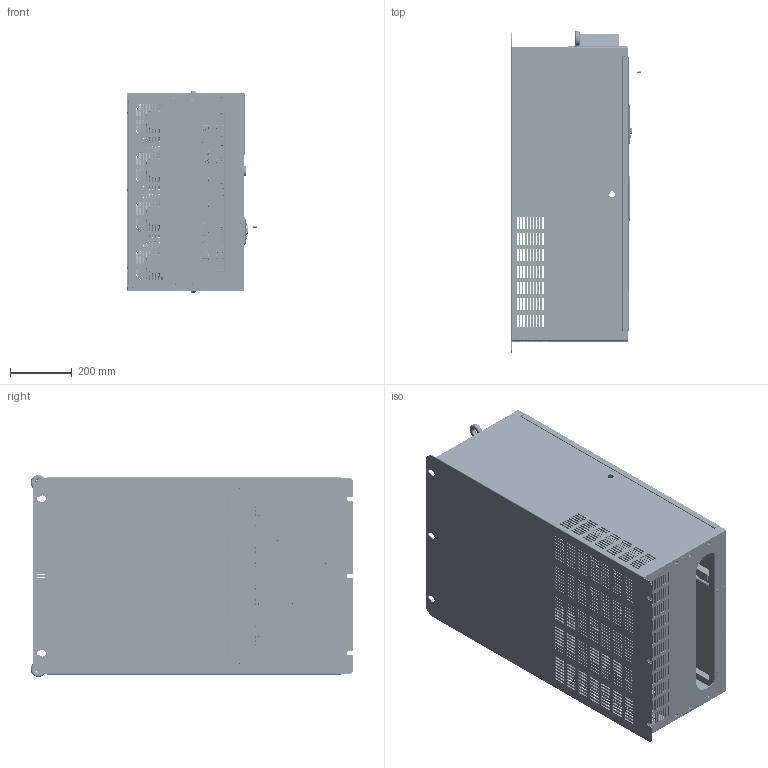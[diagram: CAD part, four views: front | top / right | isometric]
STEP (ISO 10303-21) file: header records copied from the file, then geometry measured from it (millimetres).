
FILE_DESCRIPTION(('STEP AP203'), '1');
FILE_NAME('Ïðåîáðàçîâàòåëü ÷àñòîòû _ LCI-G280_P315-4', '2024-11-01T14:45:27', ('admin'), (''), 'C3D Converter', 'C3D Toolkit', '');
FILE_SCHEMA(('CONFIG_CONTROL_DESIGN'));
Length unit declared in the file: millimetre
Products named in the file (82): LCI-G280_P315-4; LCI-G280; S-M5-1; S-M3-1; FCI-G280; S-M4-1; S-M6-1; BSO-M3-12; S-M8-1; BSO-M3-14; BSO-M3-10; BSO-M3-18; DIN 929; СБДINS LCI-KP-B; Панель управления; Панель управленния
Assembly tree (250 placements, depth 4):
  LCI-G280_P315-4
    LCI-G280
      LCI-G280
      LCI-G280
      LCI-G280
      S-M5-1  x6
    LCI-G280
      LCI-G280
      S-M5-1  x2
      S-M3-1  x8
    LCI-G280
      FCI-G280
      S-M4-1  x8
    LCI-G280
      LCI-G280
      S-M6-1  x6
      S-M4-1  x36
    LCI-G280
      LCI-G280
      S-M3-1  x4
      S-M4-1  x12
    LCI-G280  x2
    LCI-G280
      LCI-G280
      S-M5-1  x2
    (unnamed)  x2
    (unnamed)  x2
      (unnamed)
      (unnamed)
      (unnamed)
      (unnamed)
      (unnamed)
      (unnamed)
      (unnamed)
    LCI-G280  x2
    LCI-G280
    LCI-G280
      LCI-G280
      LCI-G280
      LCI-G280
      LCI-G280
        LCI-G280
        LCI-G280
        LCI-G280
        LCI-G280  x2
      LCI-G280
    LCI-G280
      LCI-G280
      BSO-M3-12  x16
    (unnamed)  x4
    LCI-G280
      LCI-G280
      S-M8-1  x12
    LCI-G280
      LCI-G280
      S-M8-1  x10
    LCI-G280  x2
      LCI-G280
      S-M5-1
    LCI-G280
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Bounding box: 420 x 1043.85 x 653.99 mm (x, y, z)
Volume: 8880300.8 mm3; surface area: 9060409.7 mm2
Topology: 254 solids, 266 shells, 17556 faces, 47818 edges, 31400 vertices
Faces by surface type: plane 14794, cylinder 1664, cone 564, bspline 282, torus 252
Full cylindrical faces by diameter (mm): 1.2 x32, 2 x27, 2.2 x1, 2.4 x4, 2.459 x43, 2.6 x8, 3 x51, 3.242 x72, 3.4 x8, 3.5 x5, 4 x72, 4.134 x28, 4.2 x29, 4.22 x12, 4.5 x24, 4.917 x6, 5 x51, 5.38 x72, 5.4 x31, 6 x26, 6.2 x1, 6.3 x12, 6.38 x28, 6.647 x22, 7 x27, 7.8 x2, 7.9 x72, 8 x28, 8.7 x28, 8.72 x6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
Entity records: 266637 total; most frequent: CARTESIAN_POINT 57036, ORIENTED_EDGE 33694, DIRECTION 31675, EDGE_CURVE 16853, LINE 14363, VECTOR 14363, VERTEX_POINT 11187, EDGE_LOOP 9090
